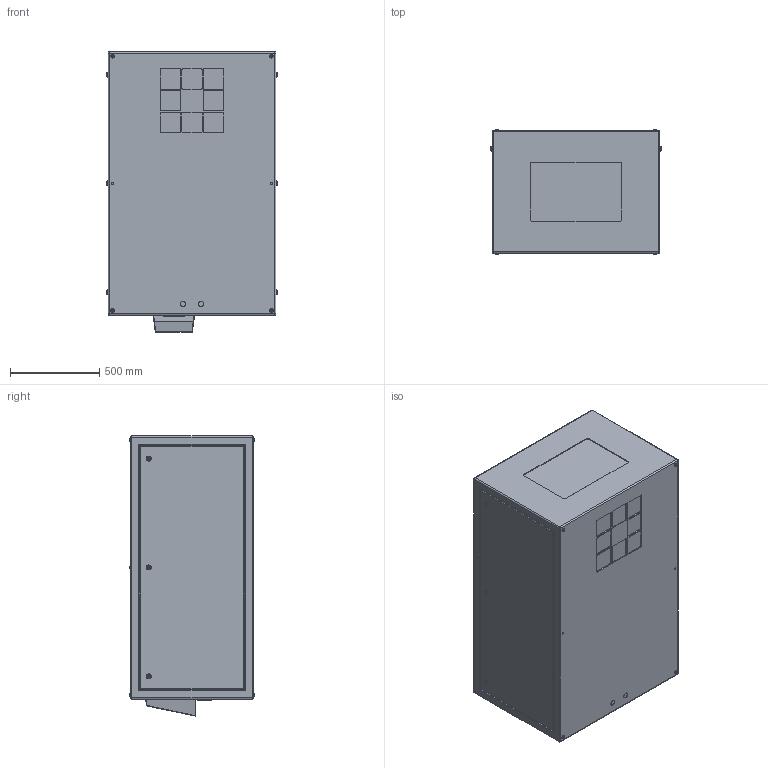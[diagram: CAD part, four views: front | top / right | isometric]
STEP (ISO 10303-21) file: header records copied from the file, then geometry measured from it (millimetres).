
FILE_DESCRIPTION (( 'STEP AP214' ), '1' );
FILE_NAME ('Cyclone 55.314.L.xx R08.STEP', '2020-08-04T22:28:49', ( '' ), ( '' ), 'SwSTEP 2.0', 'SolidWorks 2020', '' );
FILE_SCHEMA (( 'AUTOMOTIVE_DESIGN' ));
Length unit declared in the file: inch
Products named in the file (1): Cyclone 55.314.L.xx R08
Bounding box: 952.5 x 700.53 x 1568.45 mm (x, y, z)
Volume: 947547171.6 mm3; surface area: 6689854.1 mm2
Topology: 1 solids, 1 shells, 479 faces, 1118 edges, 712 vertices
Faces by surface type: plane 257, cylinder 170, torus 44, sphere 8
Entity records: 18087 total; most frequent: DIRECTION 2450, CARTESIAN_POINT 2350, ORIENTED_EDGE 2220, EDGE_CURVE 1110, AXIS2_PLACEMENT_3D 876, VERTEX_POINT 712, LINE 698, VECTOR 698
